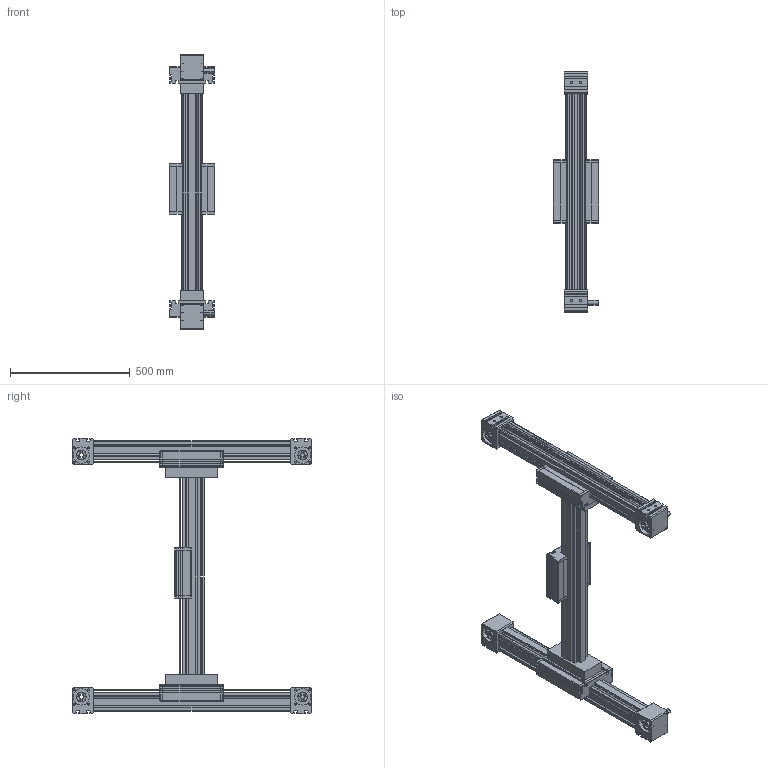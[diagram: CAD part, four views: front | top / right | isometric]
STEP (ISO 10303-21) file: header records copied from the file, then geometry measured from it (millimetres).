
FILE_DESCRIPTION (( 'STEP AP214' ), '1' );
FILE_NAME ('ELZU-80S.STEP', '2016-01-14T10:14:50', ( 'admin' ), ( '' ), 'SwSTEP 2.0', 'SolidWorks 2015', '' );
FILE_SCHEMA (( 'AUTOMOTIVE_DESIGN' ));
Length unit declared in the file: millimetre
Products named in the file (16): Kopie von Bahr-ELZ-ELZ-80S  1  0 0 1  07  1  895_End_Block(1)^Kopie von ELZ80S S0 A1_ELZU 80 S - S0-A1 - variabel_ELZ-80S-D; ELZU-80S; ELZ80S S0^ELZU 80 S - S0-A1 - variabel_Size_ELZ 80S_Choice of guide body profile_Standard_Choice of carriage_Position 0_Carriage Length_Default_Coupling - selection of shaft mounting_Position: 2_Stroke_500_Overrun_0_; Kopie von Bahr-ELZ-ELZ-80S  1  0 0 2  07  1  895_Belt^ELZ80S S0_ELZU 80 S - S0-A1 - variabel; Kopie von Bahr-ELZ-ELZ-80S  1  0 0 2  07  1  895_ELZ80S Extrusion^ELZ80S S0_ELZU 80 S - S0-A1 - variabel_0; Kopie von Bahr-ELZ-ELZ-80S  1  0 0 2  07  1  895_ELZ80S Carriage^ELZ80S S0_ELZU 80 S - S0-A1 - variabel_A; Kopie von Zahnriemenumlenkung ELZU 80 S - ED^ELZU 80 S - S0-A1 - variabel; Kopie von ELZ80S S0 A2^ELZU 80 S - S0-A1 - variabel_Size_ELZ 80S_Choice of guide body profile_Standard_Choice of carriage_Position 0_Carriage Length_Default_Coupling - selection of shaft mounting_Position: 2_Stroke_500_Overrun_0_; Kopie von Bahr-ELZ-ELZ-80S  1  0 0 2  07  1  895_ELZ80S Extrusion^Kopie von ELZ80S S0 A2_ELZU 80 S - S0-A1 - variabel_0; Kopie von Bahr-ELZ-ELZ-80S  1  0 0 2  07  1  895_ELZ80S Carriage^Kopie von ELZ80S S0 A2_ELZU 80 S - S0-A1 - variabel_A; Kopie von Bahr-ELZ-ELZ-80S  1  0 0 2  07  1  895_End_Block(2)^Kopie von ELZ80S S0 A2_ELZU 80 S - S0-A1 - variabel_ELZ-80S-A; Kopie von Bahr-ELZ-ELZ-80S  1  0 0 2  07  1  895_End_Block(1)^Kopie von ELZ80S S0 A2_ELZU 80 S - S0-A1 - variabel_ELZ-80S-C; Kopie von ELZ80S S0 A1^ELZU 80 S - S0-A1 - variabel_Size_ELZ 80S_Choice of guide body profile_Standard_Choice of carriage_Position 0_Carriage Length_Default_Coupling - selection of shaft mounting_Position: 1_Stroke_500_Overrun_0_; Kopie von Bahr-ELZ-ELZ-80S  1  0 0 1  07  1  895_ELZ80S Extrusion^Kopie von ELZ80S S0 A1_ELZU 80 S - S0-A1 - variabel_0; Kopie von Bahr-ELZ-ELZ-80S  1  0 0 1  07  1  895_ELZ80S Carriage^Kopie von ELZ80S S0 A1_ELZU 80 S - S0-A1 - variabel_A; Kopie von Bahr-ELZ-ELZ-80S  1  0 0 1  07  1  895_End_Block(2)^Kopie von ELZ80S S0 A1_ELZU 80 S - S0-A1 - variabel_ELZ-80S-B
Assembly tree (16 placements, depth 3):
  ELZU-80S
    Kopie von ELZ80S S0 A1^ELZU 80 S - S0-A1 - variabel_Size_ELZ 80S_Choice of guide body profile_Standard_Choice of carriage_Position 0_Carriage Length_Default_Coupling - selection of shaft mounting_Position: 1_Stroke_500_Overrun_0_
      Kopie von Bahr-ELZ-ELZ-80S  1  0 0 1  07  1  895_End_Block(1)^Kopie von ELZ80S S0 A1_ELZU 80 S - S0-A1 - variabel_ELZ-80S-D
      Kopie von Bahr-ELZ-ELZ-80S  1  0 0 1  07  1  895_End_Block(2)^Kopie von ELZ80S S0 A1_ELZU 80 S - S0-A1 - variabel_ELZ-80S-B
      Kopie von Bahr-ELZ-ELZ-80S  1  0 0 1  07  1  895_ELZ80S Carriage^Kopie von ELZ80S S0 A1_ELZU 80 S - S0-A1 - variabel_A
      Kopie von Bahr-ELZ-ELZ-80S  1  0 0 1  07  1  895_ELZ80S Extrusion^Kopie von ELZ80S S0 A1_ELZU 80 S - S0-A1 - variabel_0
    Kopie von ELZ80S S0 A2^ELZU 80 S - S0-A1 - variabel_Size_ELZ 80S_Choice of guide body profile_Standard_Choice of carriage_Position 0_Carriage Length_Default_Coupling - selection of shaft mounting_Position: 2_Stroke_500_Overrun_0_
      Kopie von Bahr-ELZ-ELZ-80S  1  0 0 2  07  1  895_End_Block(1)^Kopie von ELZ80S S0 A2_ELZU 80 S - S0-A1 - variabel_ELZ-80S-C
      Kopie von Bahr-ELZ-ELZ-80S  1  0 0 2  07  1  895_End_Block(2)^Kopie von ELZ80S S0 A2_ELZU 80 S - S0-A1 - variabel_ELZ-80S-A
      Kopie von Bahr-ELZ-ELZ-80S  1  0 0 2  07  1  895_ELZ80S Carriage^Kopie von ELZ80S S0 A2_ELZU 80 S - S0-A1 - variabel_A
      Kopie von Bahr-ELZ-ELZ-80S  1  0 0 2  07  1  895_ELZ80S Extrusion^Kopie von ELZ80S S0 A2_ELZU 80 S - S0-A1 - variabel_0
    Kopie von Zahnriemenumlenkung ELZU 80 S - ED^ELZU 80 S - S0-A1 - variabel  x2
    ELZ80S S0^ELZU 80 S - S0-A1 - variabel_Size_ELZ 80S_Choice of guide body profile_Standard_Choice of carriage_Position 0_Carriage Length_Default_Coupling - selection of shaft mounting_Position: 2_Stroke_500_Overrun_0_
      Kopie von Bahr-ELZ-ELZ-80S  1  0 0 2  07  1  895_ELZ80S Carriage^ELZ80S S0_ELZU 80 S - S0-A1 - variabel_A
      Kopie von Bahr-ELZ-ELZ-80S  1  0 0 2  07  1  895_ELZ80S Extrusion^ELZ80S S0_ELZU 80 S - S0-A1 - variabel_0
      Kopie von Bahr-ELZ-ELZ-80S  1  0 0 2  07  1  895_Belt^ELZ80S S0_ELZU 80 S - S0-A1 - variabel
Bounding box: 190 x 1000 x 1152 mm (x, y, z)
Volume: 26502099.1 mm3; surface area: 2764686 mm2
Topology: 28 solids, 28 shells, 1549 faces, 4233 edges, 2802 vertices
Faces by surface type: plane 1120, cylinder 393, torus 24, cone 12
Entity records: 56470 total; most frequent: CARTESIAN_POINT 8704, ORIENTED_EDGE 8442, DIRECTION 8189, EDGE_CURVE 4221, VECTOR 3375, LINE 3375, VERTEX_POINT 2794, AXIS2_PLACEMENT_3D 2407
